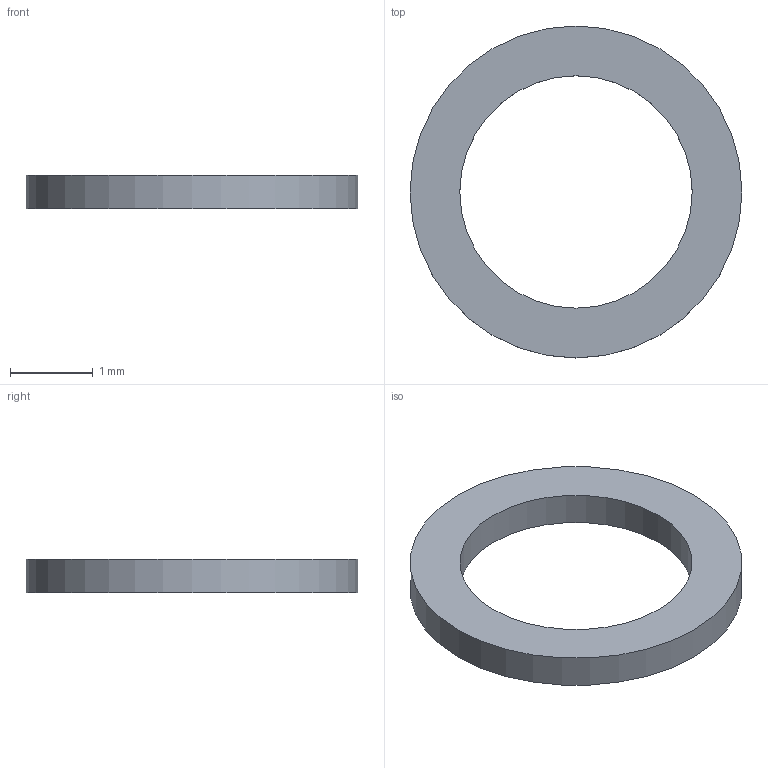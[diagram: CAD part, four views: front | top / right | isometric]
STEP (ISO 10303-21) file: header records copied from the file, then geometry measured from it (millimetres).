
FILE_DESCRIPTION(('FreeCAD Model'),'2;1');
FILE_NAME('Open CASCADE Shape Model','2023-12-13T04:26:25',(''),(''), 'Open CASCADE STEP processor 7.6','FreeCAD','Unknown');
FILE_SCHEMA(('AUTOMOTIVE_DESIGN { 1 0 10303 214 1 1 1 1 }'));
Length unit declared in the file: millimetre
Products named in the file (1): Washer
Bounding box: 4 x 4 x 0.4 mm (x, y, z)
Volume: 2.6 mm3; surface area: 21.4 mm2
Topology: 1 solids, 1 shells, 4 faces, 6 edges, 4 vertices
Faces by surface type: cylinder 2, plane 2
Full cylindrical faces by diameter (mm): 2.8 x1, 4 x1
Entity records: 120 total; most frequent: DIRECTION 20, CARTESIAN_POINT 15, ORIENTED_EDGE 12, AXIS2_PLACEMENT_3D 9, FACE_BOUND 6, EDGE_LOOP 6, EDGE_CURVE 6, ADVANCED_FACE 4
